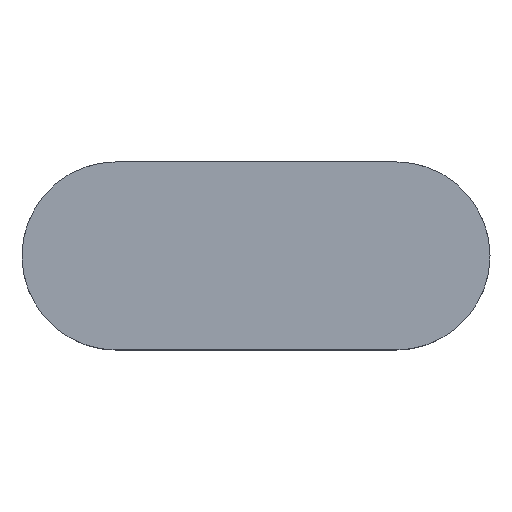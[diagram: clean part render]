
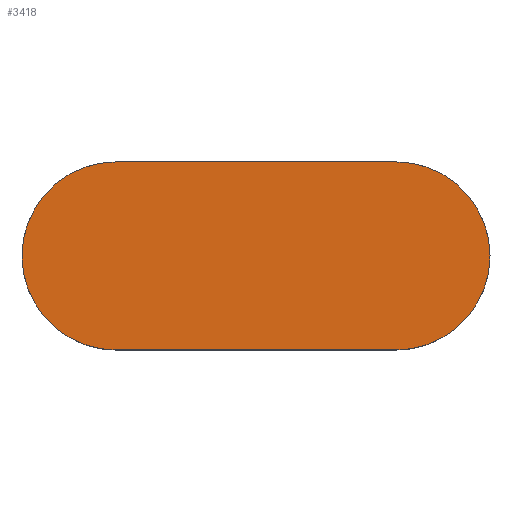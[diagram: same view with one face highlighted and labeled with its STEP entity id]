
A CAD part, top view. The second image highlights one B-rep face of the part: STEP entity #3418.
In plain terms, the highlighted planar face has unit normal (0, 0, 1) as drawn and (0, 0, -1) by its records, which use the part's own axes.
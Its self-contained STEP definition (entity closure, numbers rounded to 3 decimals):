
#2760=CARTESIAN_POINT('',(-30.2,-20.3,0.0));
#2761=VERTEX_POINT('',#2760);
#2768=CARTESIAN_POINT('',(30.2,-20.3,0.0));
#2769=VERTEX_POINT('',#2768);
#2770=CARTESIAN_POINT('',(30.2,-20.3,0.0));
#2771=DIRECTION('',(-1.0,0.0,0.0));
#2772=VECTOR('',#2771,60.4);
#2773=LINE('',#2770,#2772);
#2774=EDGE_CURVE('',#2769,#2761,#2773,.T.);
#3136=CARTESIAN_POINT('',(30.2,20.3,0.0));
#3137=VERTEX_POINT('',#3136);
#3138=CARTESIAN_POINT('',(30.2,0.,0.0));
#3139=DIRECTION('',(0.0,0.0,-1.0));
#3140=DIRECTION('',(0.0,1.0,0.0));
#3141=AXIS2_PLACEMENT_3D('',#3138,#3139,#3140);
#3142=CIRCLE('',#3141,20.3);
#3143=EDGE_CURVE('',#3137,#2769,#3142,.T.);
#3383=CARTESIAN_POINT('',(-30.2,20.3,0.0));
#3384=VERTEX_POINT('',#3383);
#3385=CARTESIAN_POINT('',(-30.2,20.3,0.0));
#3386=DIRECTION('',(1.0,0.0,0.0));
#3387=VECTOR('',#3386,60.4);
#3388=LINE('',#3385,#3387);
#3389=EDGE_CURVE('',#3384,#3137,#3388,.T.);
#3401=CARTESIAN_POINT('',(-30.2,20.3,0.0));
#3402=DIRECTION('',(0.0,0.0,-1.0));
#3403=DIRECTION('',(-1.0,0.0,0.0));
#3404=AXIS2_PLACEMENT_3D('',#3401,#3402,#3403);
#3405=PLANE('',#3404);
#3406=ORIENTED_EDGE('',*,*,#3389,.T.);
#3407=ORIENTED_EDGE('',*,*,#3143,.T.);
#3408=ORIENTED_EDGE('',*,*,#2774,.T.);
#3409=CARTESIAN_POINT('',(-30.2,0.,0.0));
#3410=DIRECTION('',(0.0,0.0,-1.0));
#3411=DIRECTION('',(0.0,-1.0,0.0));
#3412=AXIS2_PLACEMENT_3D('',#3409,#3410,#3411);
#3413=CIRCLE('',#3412,20.3);
#3414=EDGE_CURVE('',#2761,#3384,#3413,.T.);
#3415=ORIENTED_EDGE('',*,*,#3414,.T.);
#3416=EDGE_LOOP('',(#3406,#3407,#3408,#3415));
#3417=FACE_OUTER_BOUND('',#3416,.T.);
#3418=ADVANCED_FACE('',(#3417),#3405,.T.);
